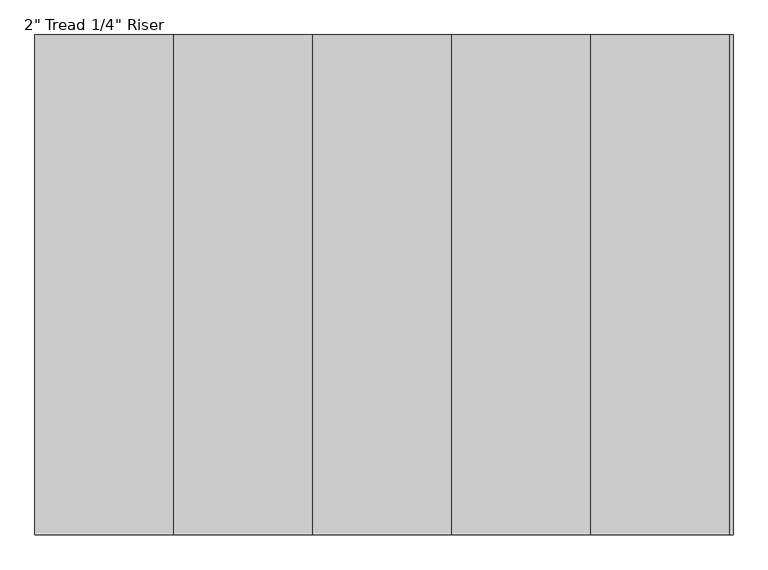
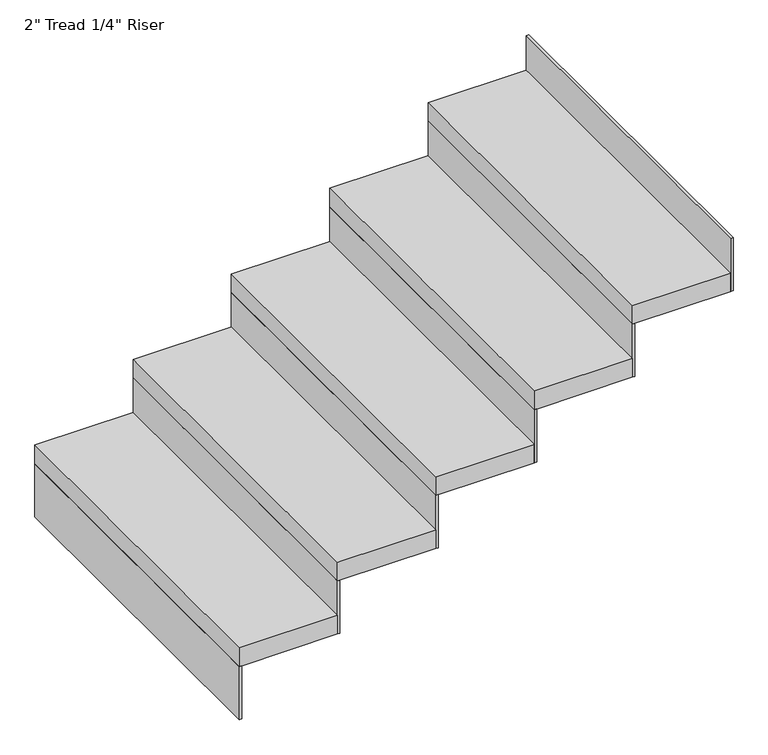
"""IFC4 building model written with IfcOpenShell, lengths in millimetres: stair flight geometry."""

from ifc_helpers import new_model, si_unit, frame, origin, place, context, project, spatial, polyline, outline, extrude, source, transform, mapped, element, save


def stair_flight_ee530d9f(model_context):
    return source(origin(), model_context, "Body", "SweptSolid", [
        extrude(outline(polyline([(114029.2382982, -18948.6120358), (114022.8882982, -18948.6120358), (114022.8882982, -18034.2120358), (114029.2382982, -18034.2120358), (114029.2382982, -18948.6120358)])), frame((0.0, 0.0, 2126.3428571), z_axis=(0.0, 0.0, 1.0), x_axis=(1.0, 0.0, 0.0)), (0.0, 0.0, 1.0), 145.1428571),
        extrude(outline(polyline([(114276.8882982, -18034.2120358), (114276.8882982, -18948.6120358), (114022.8882982, -18948.6120358), (114022.8882982, -18034.2120358), (114276.8882982, -18034.2120358)])), frame((0.0, 0.0, 2271.4857143), z_axis=(0.0, 0.0, 1.0), x_axis=(1.0, 0.0, 0.0)), (0.0, 0.0, 1.0), 50.8),
        extrude(outline(polyline([(114283.2382982, -18948.6120358), (114276.8882982, -18948.6120358), (114276.8882982, -18034.2120358), (114283.2382982, -18034.2120358), (114283.2382982, -18948.6120358)])), frame((0.0, 0.0, 2271.4857143), z_axis=(0.0, 0.0, 1.0), x_axis=(1.0, 0.0, 0.0)), (0.0, 0.0, 1.0), 145.1428571),
        extrude(outline(polyline([(114530.8882982, -18034.2120358), (114530.8882982, -18948.6120358), (114276.8882982, -18948.6120358), (114276.8882982, -18034.2120358), (114530.8882982, -18034.2120358)])), frame((0.0, 0.0, 2416.6285714), z_axis=(0.0, 0.0, 1.0), x_axis=(1.0, 0.0, 0.0)), (0.0, 0.0, 1.0), 50.8),
        extrude(outline(polyline([(114537.2382982, -18948.6120358), (114530.8882982, -18948.6120358), (114530.8882982, -18034.2120358), (114537.2382982, -18034.2120358), (114537.2382982, -18948.6120358)])), frame((0.0, 0.0, 2416.6285714), z_axis=(0.0, 0.0, 1.0), x_axis=(1.0, 0.0, 0.0)), (0.0, 0.0, 1.0), 145.1428571),
        extrude(outline(polyline([(114784.8882982, -18034.2120358), (114784.8882982, -18948.6120358), (114530.8882982, -18948.6120358), (114530.8882982, -18034.2120358), (114784.8882982, -18034.2120358)])), frame((0.0, 0.0, 2561.7714286), z_axis=(0.0, 0.0, 1.0), x_axis=(1.0, 0.0, 0.0)), (0.0, 0.0, 1.0), 50.8),
        extrude(outline(polyline([(114791.2382982, -18948.6120358), (114784.8882982, -18948.6120358), (114784.8882982, -18034.2120358), (114791.2382982, -18034.2120358), (114791.2382982, -18948.6120358)])), frame((0.0, 0.0, 2561.7714286), z_axis=(0.0, 0.0, 1.0), x_axis=(1.0, 0.0, 0.0)), (0.0, 0.0, 1.0), 145.1428571),
        extrude(outline(polyline([(115038.8882982, -18034.2120358), (115038.8882982, -18948.6120358), (114784.8882982, -18948.6120358), (114784.8882982, -18034.2120358), (115038.8882982, -18034.2120358)])), frame((0.0, 0.0, 2706.9142857), z_axis=(0.0, 0.0, 1.0), x_axis=(1.0, 0.0, 0.0)), (0.0, 0.0, 1.0), 50.8),
        extrude(outline(polyline([(115045.2382982, -18948.6120358), (115038.8882982, -18948.6120358), (115038.8882982, -18034.2120358), (115045.2382982, -18034.2120358), (115045.2382982, -18948.6120358)])), frame((0.0, 0.0, 2706.9142857), z_axis=(0.0, 0.0, 1.0), x_axis=(1.0, 0.0, 0.0)), (0.0, 0.0, 1.0), 145.1428571),
        extrude(outline(polyline([(115299.2382982, -18948.6120358), (115292.8882982, -18948.6120358), (115292.8882982, -18034.2120358), (115299.2382982, -18034.2120358), (115299.2382982, -18948.6120358)])), frame((0.0, 0.0, 2852.0571429), z_axis=(0.0, 0.0, 1.0), x_axis=(1.0, 0.0, 0.0)), (0.0, 0.0, 1.0), 145.1428571),
        extrude(outline(polyline([(115292.8882982, -18034.2120358), (115292.8882982, -18948.6120358), (115038.8882982, -18948.6120358), (115038.8882982, -18034.2120358), (115292.8882982, -18034.2120358)])), frame((0.0, 0.0, 2852.0571429), z_axis=(0.0, 0.0, 1.0), x_axis=(1.0, 0.0, 0.0)), (0.0, 0.0, 1.0), 50.8),
    ])


if __name__ == "__main__":
    model = new_model("IFC4")
    model_context = context("Model", 3, world=origin())
    ifc_project = project(units=[si_unit("LENGTHUNIT", "METRE", prefix="MILLI")], contexts=[model_context])
    site = spatial("IfcSite", under=ifc_project)
    building = spatial("IfcBuilding", under=site)
    placement = place(None, origin())
    stair_flight_shape = stair_flight_ee530d9f(model_context)
    element("IfcStairFlight", 1, ObjectType="2\" Tread 1/4\" Riser", at=placement, inside=building, context=model_context, shape_type="MappedRepresentation", body=[
        mapped(stair_flight_shape, transform((0.0, 0.0, 0.0), x_axis=(1.0, 0.0, 0.0), y_axis=(0.0, 1.0, 0.0), z_axis=(0.0, 0.0, 1.0))),
    ])
    save(model, "model.ifc")
